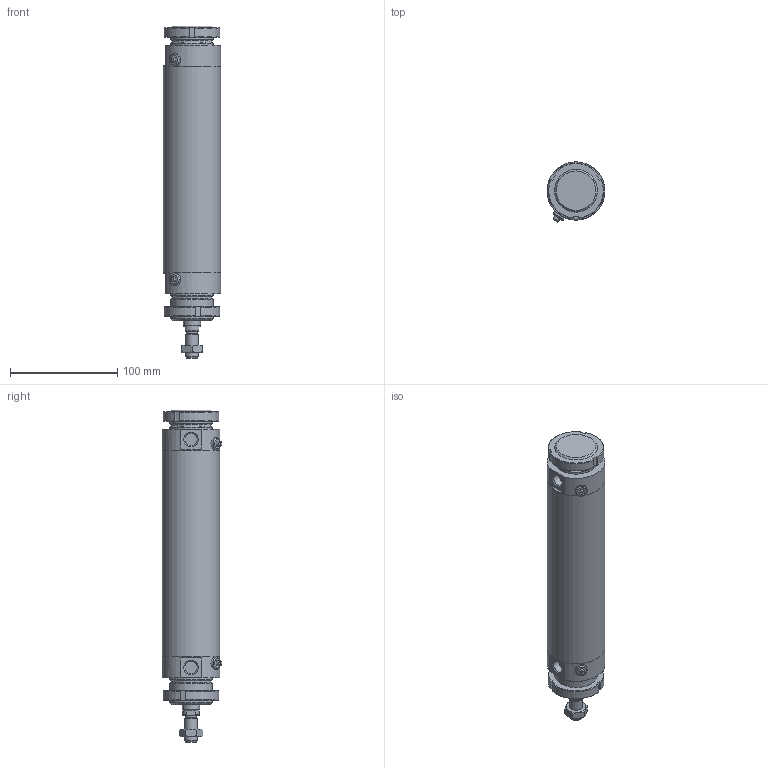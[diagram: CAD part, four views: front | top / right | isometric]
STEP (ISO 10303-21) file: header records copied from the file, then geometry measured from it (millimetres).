
FILE_DESCRIPTION(/* description */ (''),/* implementation_level */ '2;1');
FILE_NAME(/* name */ 'I:\Area Tecnica\Documenti\A-Manieri\_Inventor\12X\12X#C_###_####_#_#\12XBC_050_0150_#_#.stp',/* time_stamp */ '2015-04-28T15:43:48+02:00',/* author */ ('maniean1'),/* organization */ ('Pneumax S.p.A.'),/* preprocessor_version */ 'ST-DEVELOPER v15.2',/* originating_system */ 'Autodesk Inventor 2014',/* authorisation */ '');
FILE_SCHEMA (('AUTOMOTIVE_DESIGN { 1 0 10303 214 3 1 1 }'));
Length unit declared in the file: millimetre
Products named in the file (7): C1250_619-0150; 12X50_606; S12X50_0150; 12X_50_11; 12X50_621; G12X_050_05; 12XBC_050_0150_#_#
Bounding box: 54 x 55.88 x 310 mm (x, y, z)
Volume: 341300.8 mm3; surface area: 118572.4 mm2
Topology: 7 solids, 7 shells, 124 faces, 282 edges, 182 vertices
Faces by surface type: plane 64, cylinder 31, cone 27, torus 2
Full cylindrical faces by diameter (mm): 5 x2, 10.2 x1, 11 x2, 11.4 x2, 12 x2, 14 x1, 15.6 x1, 16 x1, 38.2 x2, 40 x6, 50 x2, 54 x3
Entity records: 2755 total; most frequent: CARTESIAN_POINT 553, DIRECTION 462, ORIENTED_EDGE 356, AXIS2_PLACEMENT_3D 197, EDGE_CURVE 178, EDGE_LOOP 160, VERTEX_POINT 136, ADVANCED_FACE 103
